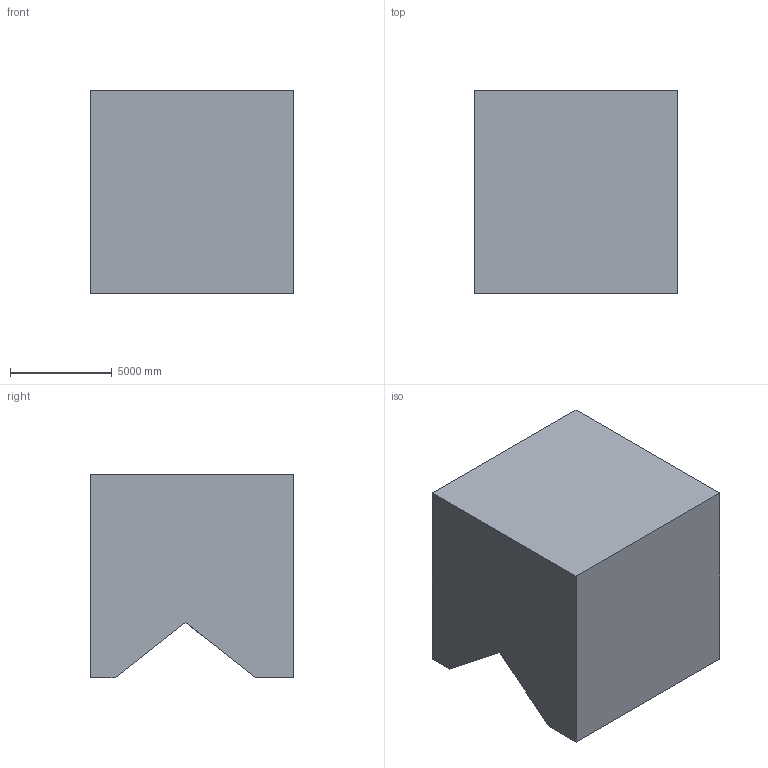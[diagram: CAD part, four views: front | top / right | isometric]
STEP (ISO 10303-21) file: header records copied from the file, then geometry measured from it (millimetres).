
FILE_DESCRIPTION (( 'STEP AP203' ), '1' );
FILE_NAME ('187.STEP', '2022-07-28T13:50:54', ( 'user' ), ( '' ), 'SwSTEP 2.0', 'SolidWorks 2021', '' );
FILE_SCHEMA (( 'CONFIG_CONTROL_DESIGN' ));
Length unit declared in the file: centimetre
Products named in the file (1): 187
Bounding box: 10000 x 10000 x 10000 mm (x, y, z)
Volume: 883640429461.1 mm3; surface area: 642391545.5 mm2
Topology: 1 solids, 1 shells, 14 faces, 36 edges, 24 vertices
Faces by surface type: plane 14
Entity records: 497 total; most frequent: CARTESIAN_POINT 75, ORIENTED_EDGE 72, DIRECTION 66, EDGE_CURVE 36, VECTOR 36, LINE 36, VERTEX_POINT 24, AXIS2_PLACEMENT_3D 15
